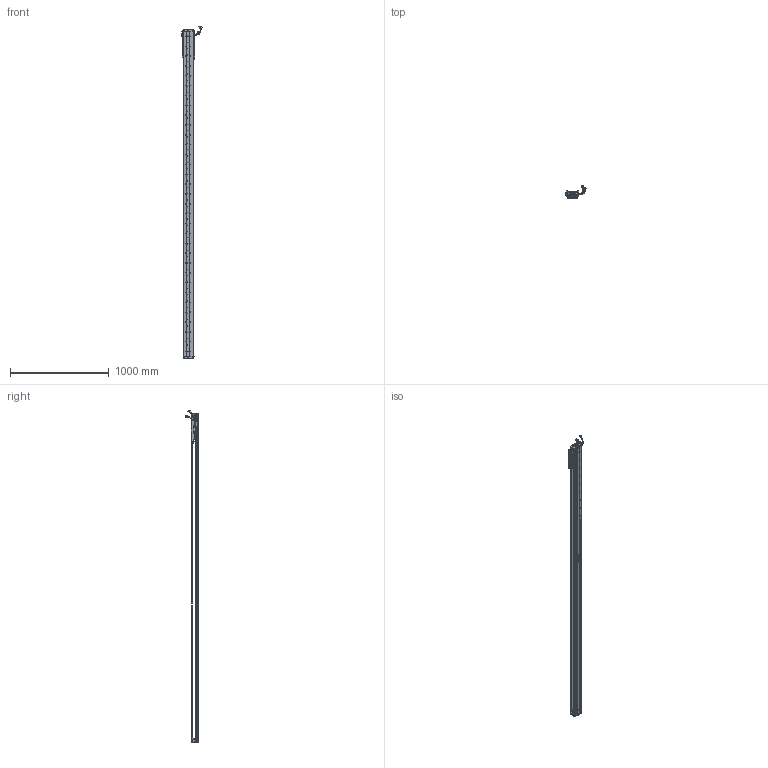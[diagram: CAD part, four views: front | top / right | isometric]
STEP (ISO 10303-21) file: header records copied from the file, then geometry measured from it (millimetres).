
FILE_DESCRIPTION (( 'STEP AP203' ), '1' );
FILE_NAME ('Z3-RY100D-1-L500-B-K.SLDASM_3000.step', '2021-05-17T02:53:21', ( '盈信电脑' ), ( '东莞市道滘镇水果街19号' ), 'SwSTEP 2.0', 'SolidWorks 2016', '' );
FILE_SCHEMA (( 'CONFIG_CONTROL_DESIGN' ));
Length unit declared in the file: millimetre
Products named in the file (36): 榋妏寠巭燃_暯_M2_2; SEAL; Z-RY100D詩湍狟揤裔; COVER-Part-1; SCREW-M1.6-2; HOLDER0; Z3-RY100D-500-倰第菁釱_3000; LABEL-Part-1; Z3-RY100D-1-L500-B-K.SLDASM_3000; HARNESS; COVER; 080黍杅芛假蚾釱21遴; Z-RY100D覜茼んえ; SCREW-M1.7; PBU_SHEET; SCALE-Part-2; SCREW-M1.6-1; 覜茼ん672; Z-RY100D詩湍奻揤裔; PSLH080_PSLF2; HARNESS-Part-1; HARNESS-Part-2; SHIELDPLATE; SCREW-M1.7-1; 100-Z-臏賑輸盄裔(21遴); SCALE-Part-1; SCALE; LABEL; 140蚥薯蝶輸; SCREW-M1.6-3; Z3-RY100铝滑块（21款）; SCREW-M1.6; Z3-RY100-L500詩湍90mm遵_3000; SEAL-Part-1; Z-100詩湍傷裔啣; 140雄赽晤鎢ん堤盄
Assembly tree (43 placements, depth 4):
  Z3-RY100D-1-L500-B-K.SLDASM_3000
    Z3-RY100D-500-倰第菁釱_3000
    Z3-RY100铝滑块（21款）
    PSLH080_PSLF2
      SCALE
        SCALE-Part-1
        SCALE-Part-2
      HARNESS
        HARNESS-Part-1
        HARNESS-Part-2
      LABEL
        LABEL-Part-1
      COVER
        COVER-Part-1
      SEAL
        SEAL-Part-1
      榋妏寠巭燃_暯_M2_2
      SHIELDPLATE
      SCREW-M1.7
      SCREW-M1.7-1
      PBU_SHEET
      SCREW-M1.6
      SCREW-M1.6-1
      SCREW-M1.6-2
      SCREW-M1.6-3
      HOLDER0
    080黍杅芛假蚾釱21遴
    Z-100詩湍傷裔啣  x2
    140蚥薯蝶輸  x2
    覜茼ん672  x3
    Z-RY100D覜茼んえ  x3
    100-Z-臏賑輸盄裔(21遴)
    140雄赽晤鎢ん堤盄
    Z3-RY100-L500詩湍90mm遵_3000
    Z-RY100D詩湍狟揤裔  x2
    Z-RY100D詩湍奻揤裔  x2
Bounding box: 205.79 x 136.11 x 3370.43 mm (x, y, z)
Volume: 6016786.7 mm3; surface area: 2382364.1 mm2
Topology: 38 solids, 38 shells, 3189 faces, 8815 edges, 5644 vertices
Faces by surface type: cylinder 1630, plane 1211, cone 226, torus 69, bspline 53
Entity records: 94257 total; most frequent: CARTESIAN_POINT 19697, DIRECTION 15289, ORIENTED_EDGE 14510, EDGE_CURVE 7255, AXIS2_PLACEMENT_3D 5788, VERTEX_POINT 4712, VECTOR 3713, LINE 3713
